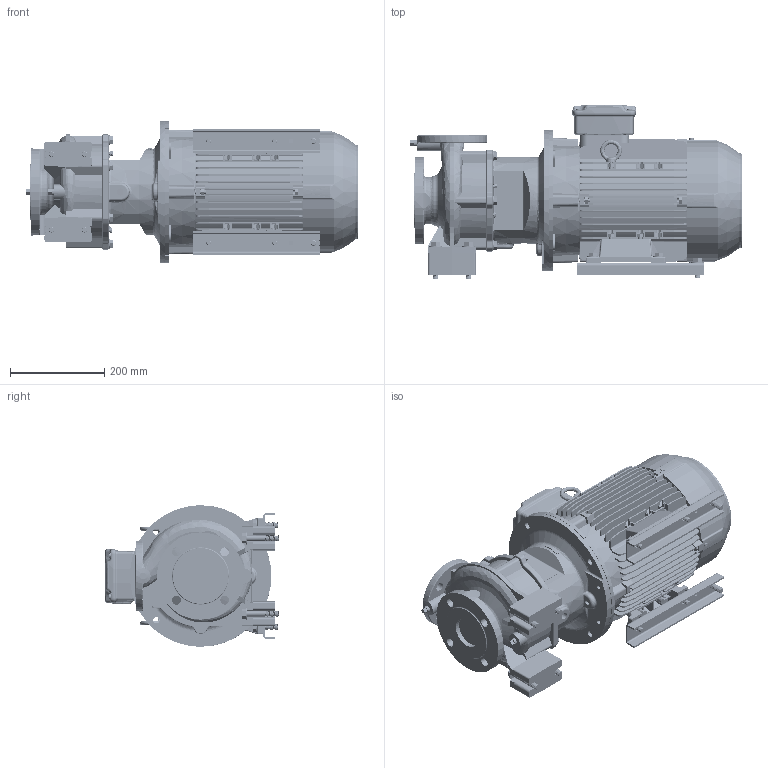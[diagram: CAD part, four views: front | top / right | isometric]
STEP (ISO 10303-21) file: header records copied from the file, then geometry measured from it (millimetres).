
FILE_DESCRIPTION (( 'STEP AP214' ), '1' );
FILE_NAME ('GSD2 40-125_5.5_(132S)_W21.STEP', '2026-07-02T05:20:27', ( '' ), ( '' ), 'SwSTEP 2.0', 'SolidWorks 2024', '' );
FILE_SCHEMA (( 'AUTOMOTIVE_DESIGN' ));
Length unit declared in the file: millimetre
Products named in the file (14): CGS11-5301_2_3_4_5_CGS11-5302; Parametric bolt and washer_SFT-A315B; Parametric Flat Washer_M12; 40-125-132S; Parametric bolt_SFT-A253B; CGS11-5301_2_3_4_5_CGS11-5301; Parametric bolt and washer_SFT-A253B; Parametric bolt_SFT-A301B; 140_178 x 25 - CGSDA-5240; Parametric bolt_SFT-A315B; GSD2  40-125_5.5_(132S)_W21; 132S ALIE3_W21T_B35; Parametric Flat Washer_M10; Parametric bolt and washer_SFT-A301B
Assembly tree (24 placements, depth 3):
  GSD2  40-125_5.5_(132S)_W21
    40-125-132S
    CGS11-5301_2_3_4_5_CGS11-5301  x2
    CGS11-5301_2_3_4_5_CGS11-5302  x2
    140_178 x 25 - CGSDA-5240  x2
    Parametric bolt and washer_SFT-A315B  x4
      Parametric bolt_SFT-A315B
      Parametric Flat Washer_M12
    Parametric bolt and washer_SFT-A301B  x2
      Parametric bolt_SFT-A301B
      Parametric Flat Washer_M12
    Parametric bolt and washer_SFT-A253B  x4
      Parametric bolt_SFT-A253B
      Parametric Flat Washer_M10
    132S ALIE3_W21T_B35
Bounding box: 704 x 369.5 x 300 mm (x, y, z)
Volume: 26295715.7 mm3; surface area: 1893925.7 mm2
Topology: 40 solids, 40 shells, 4912 faces, 12860 edges, 8369 vertices
Faces by surface type: plane 2931, cylinder 1184, torus 296, bspline 256, cone 213, sphere 32
Entity records: 169500 total; most frequent: CARTESIAN_POINT 62154, ORIENTED_EDGE 23088, DIRECTION 20863, EDGE_CURVE 11544, VECTOR 7735, LINE 7735, VERTEX_POINT 7518, AXIS2_PLACEMENT_3D 6564
